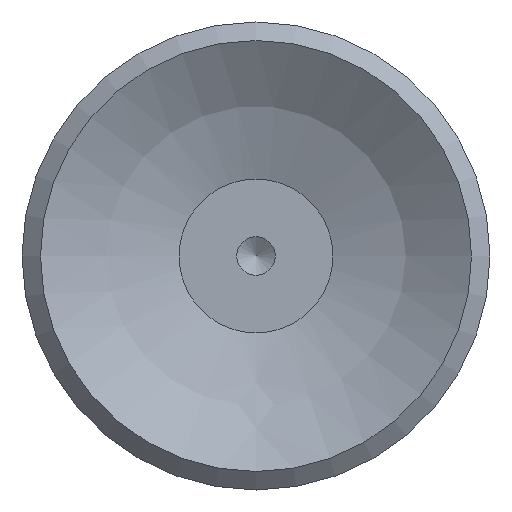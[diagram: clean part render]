
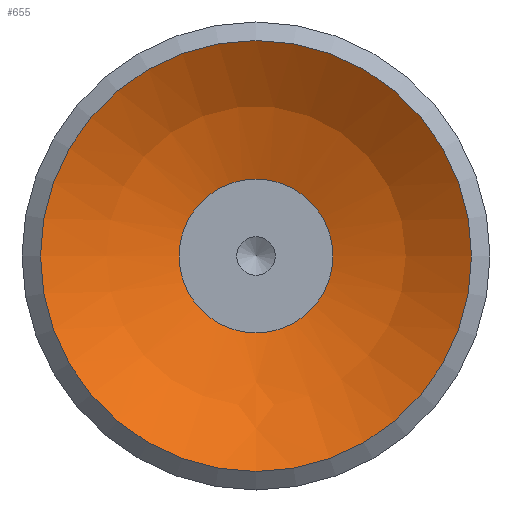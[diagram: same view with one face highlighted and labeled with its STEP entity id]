
A CAD part, front view. The second image highlights one B-rep face of the part: STEP entity #655.
In plain terms, the highlighted spherical face has radius 11.5 mm.
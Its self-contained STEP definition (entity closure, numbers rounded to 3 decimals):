
#655=ADVANCED_FACE('',(#1111,#1112),#1113,.F.);
#1111=FACE_OUTER_BOUND('',#1728,.T.);
#1112=FACE_OUTER_BOUND('',#1729,.T.);
#1113=SPHERICAL_SURFACE('',#1730,11.5);
#1728=EDGE_LOOP('',(#3223));
#1729=EDGE_LOOP('',(#3224));
#1730=AXIS2_PLACEMENT_3D('',#3225,#3226,#3227);
#3223=ORIENTED_EDGE('',*,*,#4308,.T.);
#3224=ORIENTED_EDGE('',*,*,#4279,.F.);
#3225=CARTESIAN_POINT('',(0.001,9.494,-22.735));
#3226=DIRECTION('',(0.0,0.,-1.0));
#3227=DIRECTION('',(1.0,0.0,0.0));
#4279=EDGE_CURVE('',#5000,#5000,#5001,.T.);
#4308=EDGE_CURVE('',#5053,#5053,#5054,.T.);
#5000=VERTEX_POINT('',#6911);
#5001=CIRCLE('',#6912,2.5);
#5053=VERTEX_POINT('',#6964);
#5054=CIRCLE('',#6965,7.0);
#6911=CARTESIAN_POINT('',(0.001,11.994,-11.51));
#6912=AXIS2_PLACEMENT_3D('',#7973,#7974,#7975);
#6964=CARTESIAN_POINT('',(0.001,16.494,-13.611));
#6965=AXIS2_PLACEMENT_3D('',#8060,#8061,#8062);
#7973=CARTESIAN_POINT('',(0.001,9.494,-11.51));
#7974=DIRECTION('',(0.0,0.,-1.0));
#7975=DIRECTION('',(0.0,1.0,0.));
#8060=CARTESIAN_POINT('',(0.001,9.494,-13.611));
#8061=DIRECTION('',(0.0,0.,-1.0));
#8062=DIRECTION('',(0.0,1.0,0.));
